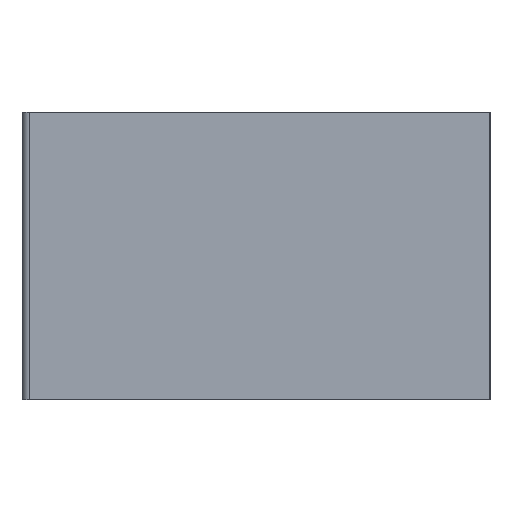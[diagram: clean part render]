
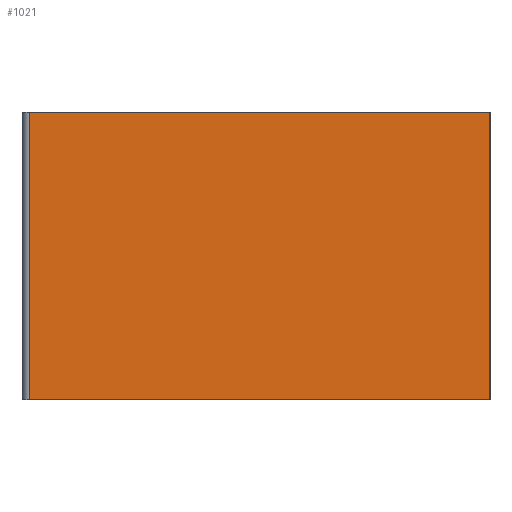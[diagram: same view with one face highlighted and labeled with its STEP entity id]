
A CAD part, left-side view. The second image highlights one B-rep face of the part: STEP entity #1021.
In plain terms, the highlighted planar face has unit normal (-1, 0, 0).
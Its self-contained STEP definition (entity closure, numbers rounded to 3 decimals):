
#152 = ORIENTED_EDGE ( 'NONE', *, *, #1679, .T. ) ;
#218 = CARTESIAN_POINT ( 'NONE',  ( 51.876, 236.352, 37.5 ) ) ;
#348 = LINE ( 'NONE', #349, #350 ) ;
#349 = CARTESIAN_POINT ( 'NONE',  ( 51.876, 236.352, 37.5 ) ) ;
#350 = VECTOR ( 'NONE', #351, 1000. ) ;
#351 = DIRECTION ( 'NONE',  ( 0., 0., -1. ) ) ;
#361 = VERTEX_POINT ( 'NONE', #218 ) ;
#503 = CARTESIAN_POINT ( 'NONE',  ( 51.876, 176.352, 37.5 ) ) ;
#564 = LINE ( 'NONE', #565, #568 ) ;
#565 = CARTESIAN_POINT ( 'NONE',  ( 51.876, 176.352, 37.5 ) ) ;
#566 = EDGE_CURVE ( 'NONE', #361, #1259, #348, .T. ) ;
#568 = VECTOR ( 'NONE', #569, 1000. ) ;
#569 = DIRECTION ( 'NONE',  ( 0., 0., -1. ) ) ;
#596 = FACE_OUTER_BOUND ( 'NONE', #796, .T. ) ;
#597 = PLANE ( 'NONE',  #598 ) ;
#598 = AXIS2_PLACEMENT_3D ( 'NONE', #599, #600, #601 ) ;
#599 = CARTESIAN_POINT ( 'NONE',  ( 51.876, 236.352, 37.5 ) ) ;
#600 = DIRECTION ( 'NONE',  ( 1., 0., 0. ) ) ;
#601 = DIRECTION ( 'NONE',  ( 0., 0., -1. ) ) ;
#760 = CARTESIAN_POINT ( 'NONE',  ( 51.876, 236.352, 0. ) ) ;
#796 = EDGE_LOOP ( 'NONE', ( #152, #1569, #1435, #1565 ) ) ;
#1018 = LINE ( 'NONE', #1019, #1024 ) ;
#1019 = CARTESIAN_POINT ( 'NONE',  ( 51.876, 236.352, 37.5 ) ) ;
#1021 = ADVANCED_FACE ( 'NONE', ( #596 ), #597, .F. ) ;
#1024 = VECTOR ( 'NONE', #1025, 1000. ) ;
#1025 = DIRECTION ( 'NONE',  ( 0., -1., 0. ) ) ;
#1051 = CARTESIAN_POINT ( 'NONE',  ( 51.876, 176.352, 0. ) ) ;
#1155 = LINE ( 'NONE', #1156, #1160 ) ;
#1156 = CARTESIAN_POINT ( 'NONE',  ( 51.876, 236.352, 0. ) ) ;
#1160 = VECTOR ( 'NONE', #1161, 1000. ) ;
#1161 = DIRECTION ( 'NONE',  ( 0., -1., 0. ) ) ;
#1259 = VERTEX_POINT ( 'NONE', #760 ) ;
#1435 = ORIENTED_EDGE ( 'NONE', *, *, #1639, .F. ) ;
#1489 = VERTEX_POINT ( 'NONE', #503 ) ;
#1524 = EDGE_CURVE ( 'NONE', #1489, #1646, #564, .T. ) ;
#1565 = ORIENTED_EDGE ( 'NONE', *, *, #566, .T. ) ;
#1569 = ORIENTED_EDGE ( 'NONE', *, *, #1524, .F. ) ;
#1639 = EDGE_CURVE ( 'NONE', #361, #1489, #1018, .T. ) ;
#1646 = VERTEX_POINT ( 'NONE', #1051 ) ;
#1679 = EDGE_CURVE ( 'NONE', #1259, #1646, #1155, .T. ) ;
